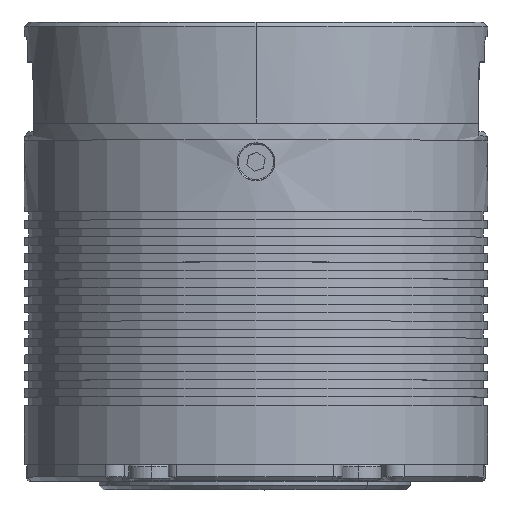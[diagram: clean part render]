
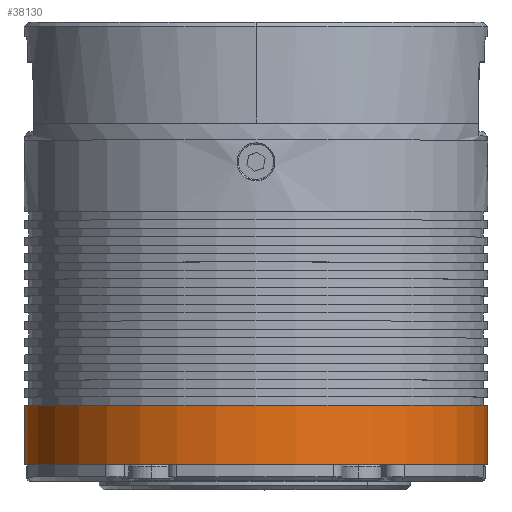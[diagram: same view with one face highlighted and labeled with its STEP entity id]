
A CAD part, top view. The second image highlights one B-rep face of the part: STEP entity #38130.
In plain terms, the highlighted cylindrical face has radius 27.5 mm (diameter 55 mm), a partial arc.
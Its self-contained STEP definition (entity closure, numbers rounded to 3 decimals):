
#6391 = DIRECTION ( 'NONE',  ( -1., 0., 0. ) ) ;
#7119 = VECTOR ( 'NONE', #19364, 1000. ) ;
#9885 = VERTEX_POINT ( 'NONE', #14131 ) ;
#14131 = CARTESIAN_POINT ( 'NONE',  ( -27.5, 0., 0.5 ) ) ;
#14637 = CYLINDRICAL_SURFACE ( 'NONE', #85238, 27.5 ) ;
#15625 = EDGE_CURVE ( 'NONE', #9885, #62203, #98625, .T. ) ;
#18109 = LINE ( 'NONE', #38371, #7119 ) ;
#19364 = DIRECTION ( 'NONE',  ( 0., 0., -1. ) ) ;
#19485 = CARTESIAN_POINT ( 'NONE',  ( 27.5, 0., 0.5 ) ) ;
#19647 = DIRECTION ( 'NONE',  ( -1., 0., 0. ) ) ;
#20891 = LINE ( 'NONE', #50005, #102874 ) ;
#21516 = DIRECTION ( 'NONE',  ( -1., 0., 0. ) ) ;
#26039 = EDGE_CURVE ( 'NONE', #69326, #9885, #18109, .T. ) ;
#26505 = CARTESIAN_POINT ( 'NONE',  ( -27.5, 0., 7.5 ) ) ;
#27263 = DIRECTION ( 'NONE',  ( 0., 0., -1. ) ) ;
#28856 = EDGE_CURVE ( 'NONE', #69326, #124742, #123133, .T. ) ;
#29071 = EDGE_CURVE ( 'NONE', #124742, #62203, #20891, .T. ) ;
#30021 = ORIENTED_EDGE ( 'NONE', *, *, #29071, .T. ) ;
#36769 = FACE_OUTER_BOUND ( 'NONE', #101181, .T. ) ;
#38130 = ADVANCED_FACE ( 'NONE', ( #36769 ), #14637, .T. ) ;
#38371 = CARTESIAN_POINT ( 'NONE',  ( -27.5, 0., 35.5 ) ) ;
#39973 = ORIENTED_EDGE ( 'NONE', *, *, #28856, .T. ) ;
#50005 = CARTESIAN_POINT ( 'NONE',  ( 27.5, 0., 35.5 ) ) ;
#59518 = DIRECTION ( 'NONE',  ( 0., 0., -1. ) ) ;
#62203 = VERTEX_POINT ( 'NONE', #19485 ) ;
#62966 = ORIENTED_EDGE ( 'NONE', *, *, #26039, .F. ) ;
#64161 = AXIS2_PLACEMENT_3D ( 'NONE', #109531, #89285, #21516 ) ;
#69326 = VERTEX_POINT ( 'NONE', #26505 ) ;
#76337 = ORIENTED_EDGE ( 'NONE', *, *, #15625, .F. ) ;
#85238 = AXIS2_PLACEMENT_3D ( 'NONE', #112764, #91902, #6391 ) ;
#89285 = DIRECTION ( 'NONE',  ( 0., 0., -1. ) ) ;
#91902 = DIRECTION ( 'NONE',  ( 0., 0., -1. ) ) ;
#96813 = AXIS2_PLACEMENT_3D ( 'NONE', #115906, #27263, #19647 ) ;
#98625 = CIRCLE ( 'NONE', #64161, 27.5 ) ;
#101181 = EDGE_LOOP ( 'NONE', ( #39973, #30021, #76337, #62966 ) ) ;
#102874 = VECTOR ( 'NONE', #59518, 1000. ) ;
#109531 = CARTESIAN_POINT ( 'NONE',  ( 0., 0., 0.5 ) ) ;
#112764 = CARTESIAN_POINT ( 'NONE',  ( 0., 0., 35.5 ) ) ;
#115906 = CARTESIAN_POINT ( 'NONE',  ( 0., 0., 7.5 ) ) ;
#123133 = CIRCLE ( 'NONE', #96813, 27.5 ) ;
#123724 = CARTESIAN_POINT ( 'NONE',  ( 27.5, 0., 7.5 ) ) ;
#124742 = VERTEX_POINT ( 'NONE', #123724 ) ;
